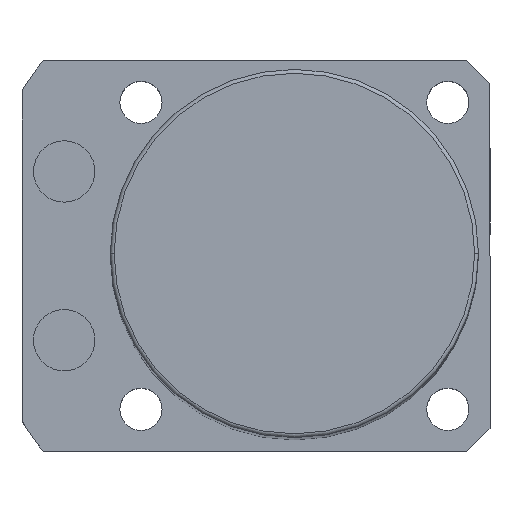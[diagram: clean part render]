
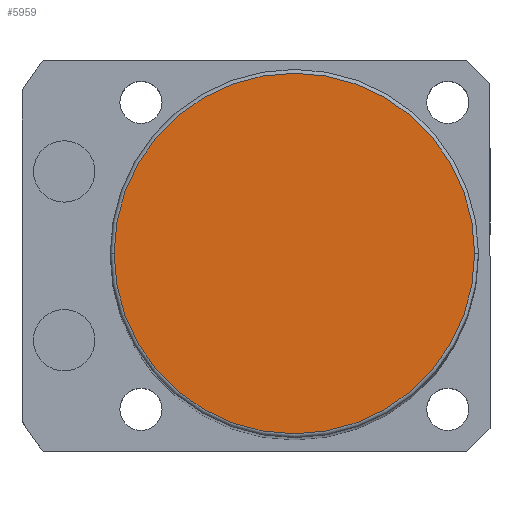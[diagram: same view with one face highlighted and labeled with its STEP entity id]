
A CAD part, top view. The second image highlights one B-rep face of the part: STEP entity #5959.
In plain terms, the highlighted planar face has unit normal (0, 0, 1).
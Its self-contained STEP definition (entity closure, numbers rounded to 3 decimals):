
#210 = CARTESIAN_POINT ( 'NONE',  ( 0., 0., 186. ) ) ;
#244 = CARTESIAN_POINT ( 'NONE',  ( -23.5, 0., 186. ) ) ;
#641 = CIRCLE ( 'NONE', #3786, 23.5 ) ;
#754 = ORIENTED_EDGE ( 'NONE', *, *, #4794, .T. ) ;
#1071 = DIRECTION ( 'NONE',  ( 1., 0., 0. ) ) ;
#3168 = AXIS2_PLACEMENT_3D ( 'NONE', #4121, #6159, #1071 ) ;
#3477 = CIRCLE ( 'NONE', #3168, 23.5 ) ;
#3767 = DIRECTION ( 'NONE',  ( 0., 0., 1. ) ) ;
#3786 = AXIS2_PLACEMENT_3D ( 'NONE', #210, #3767, #5726 ) ;
#4060 = PLANE ( 'NONE',  #6390 ) ;
#4121 = CARTESIAN_POINT ( 'NONE',  ( 0., 0., 186. ) ) ;
#4132 = FACE_OUTER_BOUND ( 'NONE', #6547, .T. ) ;
#4190 = CARTESIAN_POINT ( 'NONE',  ( 0., 0., 186. ) ) ;
#4714 = DIRECTION ( 'NONE',  ( 1., 0., 0. ) ) ;
#4794 = EDGE_CURVE ( 'NONE', #6052, #5444, #641, .T. ) ;
#5158 = DIRECTION ( 'NONE',  ( 0., 0., 1. ) ) ;
#5301 = ORIENTED_EDGE ( 'NONE', *, *, #6450, .T. ) ;
#5444 = VERTEX_POINT ( 'NONE', #6400 ) ;
#5726 = DIRECTION ( 'NONE',  ( 1., 0., 0. ) ) ;
#5959 = ADVANCED_FACE ( 'NONE', ( #4132 ), #4060, .T. ) ;
#6052 = VERTEX_POINT ( 'NONE', #244 ) ;
#6159 = DIRECTION ( 'NONE',  ( 0., 0., 1. ) ) ;
#6390 = AXIS2_PLACEMENT_3D ( 'NONE', #4190, #5158, #4714 ) ;
#6400 = CARTESIAN_POINT ( 'NONE',  ( 23.5, 0., 186. ) ) ;
#6450 = EDGE_CURVE ( 'NONE', #5444, #6052, #3477, .T. ) ;
#6547 = EDGE_LOOP ( 'NONE', ( #5301, #754 ) ) ;
